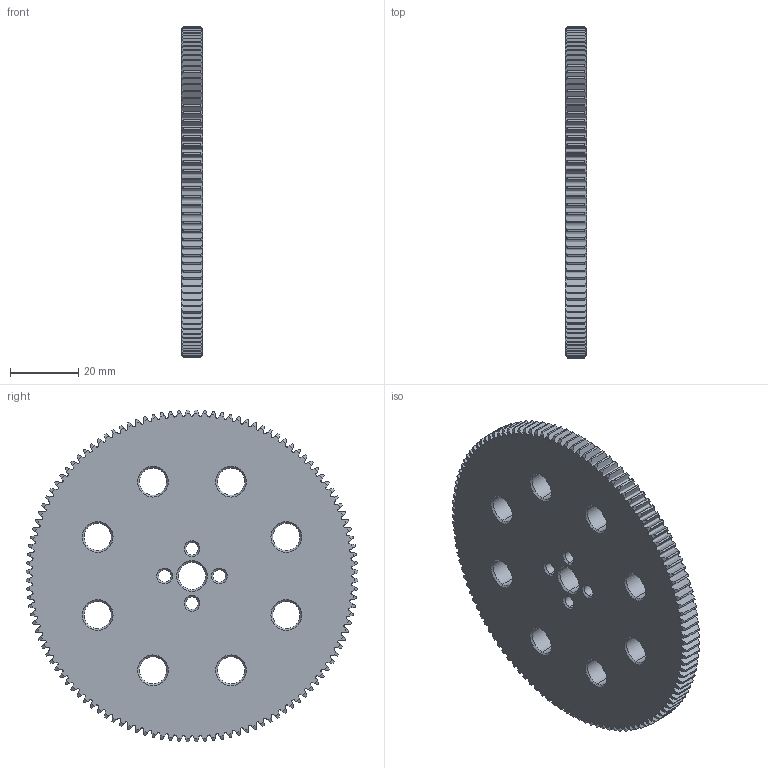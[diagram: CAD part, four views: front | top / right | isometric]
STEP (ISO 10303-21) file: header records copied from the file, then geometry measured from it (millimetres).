
FILE_DESCRIPTION (( 'STEP AP214' ), '1' );
FILE_NAME ('39085_TXM-Gear120-Tooth.STEP', '2017-01-16T14:31:56', ( '' ), ( '' ), 'SwSTEP 2.0', 'SolidWorks 2016', '' );
FILE_SCHEMA (( 'AUTOMOTIVE_DESIGN' ));
Length unit declared in the file: millimetre
Products named in the file (2): 39085_TXM-Gear120-Tooth
Bounding box: 6.35 x 97.58 x 97.58 mm (x, y, z)
Volume: 41255.9 mm3; surface area: 18575.4 mm2
Topology: 1 solids, 1 shells, 560 faces, 1622 edges, 1064 vertices
Faces by surface type: cone 292, cylinder 146, bspline 120, plane 2
Entity records: 47455 total; most frequent: CARTESIAN_POINT 33848, ORIENTED_EDGE 3244, DIRECTION 2370, EDGE_CURVE 1622, VERTEX_POINT 1064, AXIS2_PLACEMENT_3D 1026, B_SPLINE_CURVE_WITH_KNOTS 720, EDGE_LOOP 586
